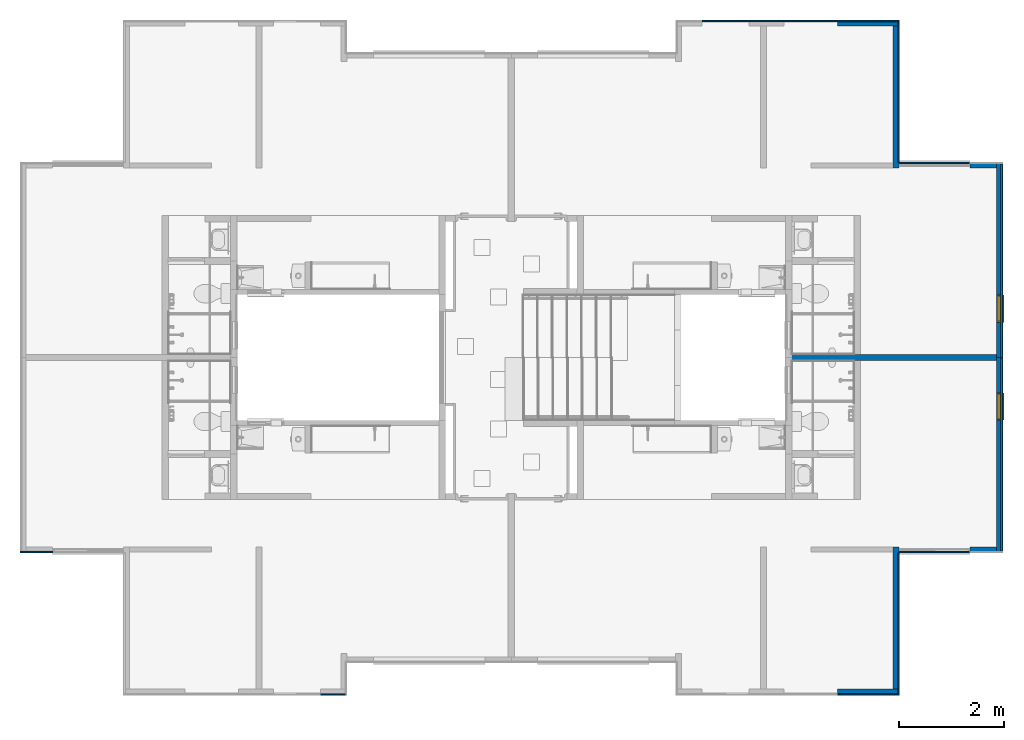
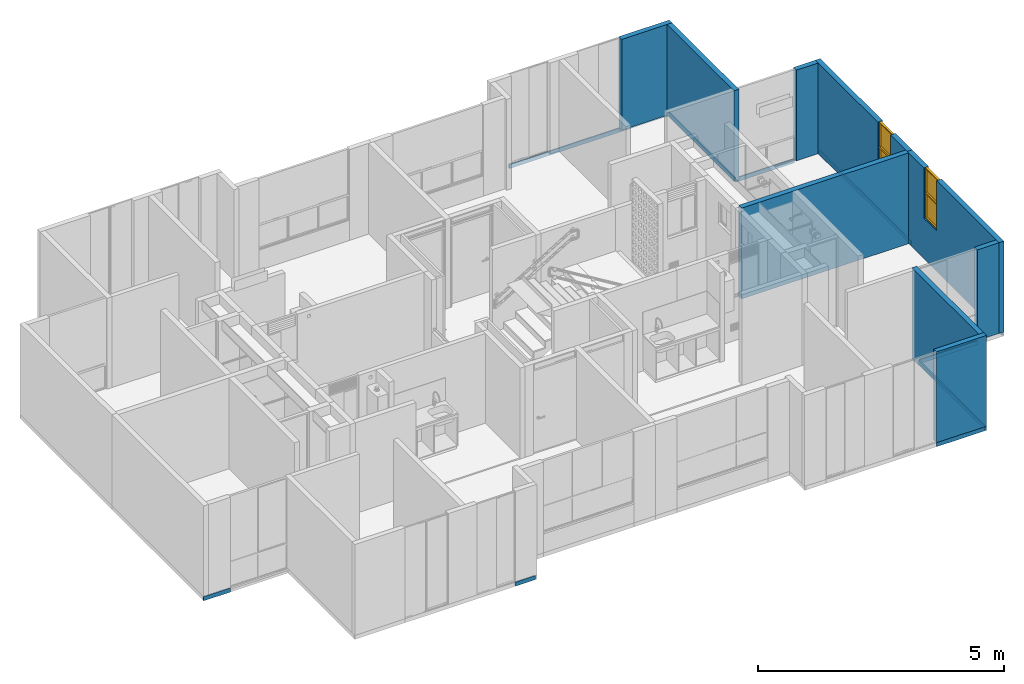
# One storey, part 26 of 48: 20 walls, 2 windows, 2 openings.
"""IFC4 building model written with IfcOpenShell, lengths in metres."""

from ifc_helpers import new_model, entity, si_unit, converted_unit, derived_unit, direction, frame, origin, place, context, subcontext, project, spatial, indexed_curve, outline, extrude, polygons, source, transform, mapped, material, constituent, constituent_set, type_object, type_shapes, element, fill, save


model = new_model("IFC4")

# Units and contexts
model_context = context("Model", 3, precision=1e-05, world=origin(), true_north=direction((6.123031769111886e-17, 1.0)))
body_context = subcontext(model_context, "Body", "Model", "MODEL_VIEW")
ifc_project = project(units=[si_unit("LENGTHUNIT", "METRE"), si_unit("AREAUNIT", "SQUARE_METRE"), si_unit("VOLUMEUNIT", "CUBIC_METRE"), converted_unit("PLANEANGLEUNIT", "DEGREE", entity("IfcRatioMeasure", 0.017453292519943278), si_unit("PLANEANGLEUNIT", "RADIAN"), dimensions=[0, 0, 0, 0, 0, 0, 0]), si_unit("MASSUNIT", "GRAM", prefix="KILO"), derived_unit("MASSDENSITYUNIT", [(si_unit("MASSUNIT", "GRAM", prefix="KILO"), 1), (si_unit("LENGTHUNIT", "METRE"), -3)]), derived_unit("IONCONCENTRATIONUNIT", [(si_unit("MASSUNIT", "GRAM", prefix="KILO"), 1), (si_unit("LENGTHUNIT", "METRE"), -3)]), derived_unit("MOMENTOFINERTIAUNIT", [(si_unit("LENGTHUNIT", "METRE"), 4)]), si_unit("TIMEUNIT", "SECOND"), si_unit("FREQUENCYUNIT", "HERTZ"), si_unit("THERMODYNAMICTEMPERATUREUNIT", "DEGREE_CELSIUS"), derived_unit("THERMALTRANSMITTANCEUNIT", [(si_unit("MASSUNIT", "GRAM", prefix="KILO"), 1), (si_unit("THERMODYNAMICTEMPERATUREUNIT", "KELVIN"), -1), (si_unit("TIMEUNIT", "SECOND"), -3)]), derived_unit("THERMALCONDUCTANCEUNIT", [(si_unit("MASSUNIT", "GRAM", prefix="KILO"), 1), (si_unit("THERMODYNAMICTEMPERATUREUNIT", "KELVIN"), -1), (si_unit("TIMEUNIT", "SECOND"), -3), (si_unit("LENGTHUNIT", "METRE"), 1)]), derived_unit("VOLUMETRICFLOWRATEUNIT", [(si_unit("LENGTHUNIT", "METRE"), 3), (si_unit("TIMEUNIT", "SECOND"), -1)]), derived_unit("MASSFLOWRATEUNIT", [(si_unit("MASSUNIT", "GRAM", prefix="KILO"), 1), (si_unit("TIMEUNIT", "SECOND"), -1)]), derived_unit("ROTATIONALFREQUENCYUNIT", [(si_unit("TIMEUNIT", "SECOND"), -1)]), si_unit("ELECTRICCURRENTUNIT", "AMPERE"), si_unit("ELECTRICVOLTAGEUNIT", "VOLT"), si_unit("POWERUNIT", "WATT"), si_unit("FORCEUNIT", "NEWTON", prefix="KILO"), si_unit("ILLUMINANCEUNIT", "LUX"), si_unit("LUMINOUSFLUXUNIT", "LUMEN"), si_unit("LUMINOUSINTENSITYUNIT", "CANDELA"), derived_unit("USERDEFINED", [(si_unit("MASSUNIT", "GRAM", prefix="KILO"), -1), (si_unit("LENGTHUNIT", "METRE"), -2), (si_unit("TIMEUNIT", "SECOND"), 3), (si_unit("LUMINOUSFLUXUNIT", "LUMEN"), 1)]), derived_unit("USERDEFINED", [(si_unit("MASSUNIT", "GRAM", prefix="KILO"), 1), (si_unit("TIMEUNIT", "SECOND"), -3), (si_unit("LENGTHUNIT", "METRE"), 3), (si_unit("ELECTRICCURRENTUNIT", "AMPERE"), -2)]), derived_unit("SOUNDPOWERUNIT", [(si_unit("MASSUNIT", "GRAM", prefix="KILO"), 1), (si_unit("TIMEUNIT", "SECOND"), -3), (si_unit("LENGTHUNIT", "METRE"), 2)]), derived_unit("SOUNDPRESSUREUNIT", [(si_unit("MASSUNIT", "GRAM", prefix="KILO"), 1), (si_unit("LENGTHUNIT", "METRE"), -1), (si_unit("TIMEUNIT", "SECOND"), -2)]), derived_unit("LINEARVELOCITYUNIT", [(si_unit("LENGTHUNIT", "METRE"), 1), (si_unit("TIMEUNIT", "SECOND"), -1)]), si_unit("PRESSUREUNIT", "PASCAL"), derived_unit("USERDEFINED", [(si_unit("MASSUNIT", "GRAM", prefix="KILO"), 1), (si_unit("LENGTHUNIT", "METRE"), -2), (si_unit("TIMEUNIT", "SECOND"), -2)]), derived_unit("LINEARFORCEUNIT", [(si_unit("MASSUNIT", "GRAM", prefix="KILO"), 1), (si_unit("TIMEUNIT", "SECOND"), -2)]), derived_unit("PLANARFORCEUNIT", [(si_unit("MASSUNIT", "GRAM", prefix="KILO"), 1), (si_unit("LENGTHUNIT", "METRE"), -1), (si_unit("TIMEUNIT", "SECOND"), -2)]), derived_unit("SPECIFICHEATCAPACITYUNIT", [(si_unit("THERMODYNAMICTEMPERATUREUNIT", "KELVIN"), -1), (si_unit("LENGTHUNIT", "METRE"), 2), (si_unit("TIMEUNIT", "SECOND"), -2)]), derived_unit("HEATINGVALUEUNIT", [(si_unit("LENGTHUNIT", "METRE"), 2), (si_unit("TIMEUNIT", "SECOND"), -2)]), derived_unit("VAPORPERMEABILITYUNIT", [(si_unit("LENGTHUNIT", "METRE"), -1), (si_unit("TIMEUNIT", "SECOND"), 1)]), derived_unit("DYNAMICVISCOSITYUNIT", [(si_unit("MASSUNIT", "GRAM", prefix="KILO"), 1), (si_unit("TIMEUNIT", "SECOND"), -1), (si_unit("LENGTHUNIT", "METRE"), -1)]), derived_unit("THERMALEXPANSIONCOEFFICIENTUNIT", [(si_unit("THERMODYNAMICTEMPERATUREUNIT", "KELVIN"), -1)]), derived_unit("MODULUSOFELASTICITYUNIT", [(si_unit("MASSUNIT", "GRAM", prefix="KILO"), 1), (si_unit("LENGTHUNIT", "METRE"), -1), (si_unit("TIMEUNIT", "SECOND"), -2)]), derived_unit("ISOTHERMALMOISTURECAPACITYUNIT", [(si_unit("LENGTHUNIT", "METRE"), 3), (si_unit("MASSUNIT", "GRAM", prefix="KILO"), -1)]), derived_unit("MOISTUREDIFFUSIVITYUNIT", [(si_unit("TIMEUNIT", "SECOND"), -1), (si_unit("LENGTHUNIT", "METRE"), 2)])], contexts=[model_context])

# Site, building, storey
site_placement = place(None, origin())
site = spatial("IfcSite", under=ifc_project, at=site_placement, Name="Default", CompositionType="ELEMENT")
building_placement = place(site_placement, origin())
building = spatial("IfcBuilding", under=site, at=building_placement, CompositionType="ELEMENT")
storey_placement = place(building_placement, frame((0.0, 0.0, 9.40000000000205)))
storey = spatial("IfcBuildingStorey", under=building, at=storey_placement, Name="Nivel 5", CompositionType="ELEMENT", Elevation=9.40000000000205)

# Wall
ifc_material_1 = material(Name="Concreto (Aire)", Category="Materials")
wall_type_1 = type_object("IfcWallType", Name="Basic Wall:B2010 - 0.12m - Muro interior en concreto", PredefinedType="STANDARD")
wall_1_placement = place(storey_placement, frame((18.587500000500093, -6.425000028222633, 0.0), z_axis=(0.0, 0.0, 1.0), x_axis=(-1.0, 0.0, 0.0)))
element("IfcWall", 1, at=wall_1_placement, inside=storey, type_object=wall_type_1, material=ifc_material_1, Name="Basic Wall:B2010 - 0.12m - Muro interior en concreto", ObjectType="Basic Wall:B2010 - 0.12m - Muro interior en concreto", PredefinedType="NOTDEFINED", context=body_context, shape_type="SweptSolid", body=[
    extrude(outline(indexed_curve([(3.914999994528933, 0.06000000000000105), (1.8965521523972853e-16, 0.060000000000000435), (-1.8965521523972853e-16, -0.060000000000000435), (3.914999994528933, -0.05999999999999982), (3.914999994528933, 0.06000000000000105)], self_intersect=False)), origin(), (0.0, 0.0, 1.0), 2.2500000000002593),
])

# Wall, opening, window
ifc_material_2 = material(Name="Ladrillo claro (Aire)", Category="Materials")
wall_type_2 = type_object("IfcWallType", Name="Basic Wall:B2010 - 0.115m - Muro exterior en mampostería - Ladrillo", PredefinedType="STANDARD")
wall_2_placement = place(storey_placement, frame((18.64500000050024, -2.695000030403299, 0.0), z_axis=(0.0, 0.0, 1.0), x_axis=(0.0, -1.0, 0.0)))
wall_2 = element("IfcWall", 2, at=wall_2_placement, inside=storey, type_object=wall_type_2, material=ifc_material_2, Name="Basic Wall:B2010 - 0.115m - Muro exterior en mampostería - Ladrillo", ObjectType="Basic Wall:B2010 - 0.115m - Muro exterior en mampostería - Ladrillo", PredefinedType="NOTDEFINED", context=body_context, shape_type="Tessellation", body=[
    polygons([(3.729999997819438, -0.05750000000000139, 2.25000000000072), (3.056249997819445, -0.05749999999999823, 2.250000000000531), (3.056249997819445, -0.05749999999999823, 1.0000000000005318), (2.536249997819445, -0.057500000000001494, 1.0000000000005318), (2.536249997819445, -0.057500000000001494, 2.250000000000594), (5.414335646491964e-16, -0.05749999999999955, 2.25000000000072), (5.414335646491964e-16, -0.05749999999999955, -2.1657342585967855e-15), (3.729999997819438, -0.05750000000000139, -2.1657342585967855e-15), (3.0562499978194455, 0.05750000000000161, 1.0000000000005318), (3.0562499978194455, 0.05750000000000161, 2.250000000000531), (3.7299999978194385, 0.05750000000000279, 2.25000000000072), (3.7299999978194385, 0.05750000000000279, -2.1657342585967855e-15), (5.414335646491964e-16, 0.057500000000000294, -2.1657342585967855e-15), (5.414335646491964e-16, 0.057500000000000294, 2.25000000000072), (2.5362499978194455, 0.05750000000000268, 2.250000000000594), (2.5362499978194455, 0.05750000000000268, 1.0000000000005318)], [[[1, 2, 3, 4, 5, 6, 7, 8]], [[9, 10, 11, 12, 13, 14, 15, 16]], [[8, 7, 13, 12]], [[1, 8, 12, 11]], [[11, 10, 2, 1]], [[7, 6, 14, 13]], [[5, 4, 16, 15]], [[3, 2, 10, 9]], [[4, 3, 9, 16]], [[15, 14, 6, 5]]], closed=True),
])
opening_1_placement = place(wall_2_placement, frame((2.5362499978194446, -0.057500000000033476, 1.0)))
opening_1 = element("IfcOpeningElement", 3, at=opening_1_placement, cuts=wall_2, Name="B2020 - Ventana batiente - Aluminio + Vidrio:B2020 -0.52m x 1.1.25m - Ventana batiente 2C - Aluminio + Vidrio:1", PredefinedType="OPENING", context=body_context, shape_type="SweptSolid", body=[
    extrude(outline(indexed_curve([(0.0, -1.3535839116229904e-16), (1.2499999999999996, -1.3535839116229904e-16), (1.2499999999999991, 0.5199999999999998), (0.0, 0.5199999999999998), (0.0, -1.3535839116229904e-16)], self_intersect=False)), frame((0.0, 0.0, 0.0), z_axis=(0.0, 1.0, 0.0), x_axis=(0.0, 0.0, 1.0)), (0.0, 0.0, 1.0), 0.115),
])
ifc_material_3 = material(Name="Vidrio", Category="Materials")
ifc_constituent_1 = constituent(ifc_material_3, Name="Vidrio", Category="Materials")
ifc_material_4 = material(Name="Aluminio", Category="Materials")
ifc_constituent_2 = constituent(ifc_material_4, Name="Aluminio", Category="Materials")
ifc_material_5 = material(Name="<Unnamed>")
ifc_constituent_3 = constituent(ifc_material_5, Name="<Unnamed>")
ifc_constituent_set_1 = constituent_set(constituents=[ifc_constituent_1, ifc_constituent_2, ifc_constituent_3])
ifc_constituent_4 = constituent(ifc_material_3, Name="Vidrio", Category="Materials")
ifc_constituent_5 = constituent(ifc_material_4, Name="Aluminio", Category="Materials")
ifc_constituent_6 = constituent(ifc_material_5, Name="<Unnamed>")
ifc_constituent_set_2 = constituent_set(constituents=[ifc_constituent_4, ifc_constituent_5, ifc_constituent_6])
window_type_1 = type_object("IfcWindowType", Name="B2020 - Ventana batiente - Aluminio + Vidrio:B2020 -0.52m x 1.1.25m - Ventana batiente 2C - Aluminio + Vidrio", PartitioningType="NOTDEFINED", PredefinedType="WINDOW", material=ifc_constituent_set_2)
shared_shape_1 = source(origin(), body_context, "Body", "SweptSolid", [
    extrude(outline(indexed_curve([(-0.0020000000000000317, -0.2400000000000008), (0.0019999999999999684, -0.2400000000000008), (0.0020000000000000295, 0.2400000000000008), (-0.0019999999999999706, 0.2400000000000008), (-0.0020000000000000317, -0.2400000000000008)], self_intersect=False)), frame((0.26000000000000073, 0.07013901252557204, 0.01999999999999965), z_axis=(0.0, 0.0, 1.0), x_axis=(0.0, -1.0, 0.0)), (0.0, 0.0, 1.0), 0.585),
    extrude(outline(indexed_curve([(-0.3124999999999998, -0.2599999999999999), (0.3124999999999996, -0.2599999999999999), (0.3124999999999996, 0.2599999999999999), (-0.3124999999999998, 0.2599999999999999), (-0.3124999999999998, -0.2599999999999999)], self_intersect=False), holes=[indexed_curve([(0.2924999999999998, -0.24000000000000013), (-0.2925, -0.24000000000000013), (-0.2925, 0.24000000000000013), (0.2924999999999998, 0.24000000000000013), (0.2924999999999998, -0.24000000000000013)], self_intersect=False)]), frame((0.26000000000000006, 0.032499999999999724, 0.3124999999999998), z_axis=(0.0, 1.0, 0.0), x_axis=(0.0, 0.0, 1.0)), (0.0, 0.0, 1.0), 0.05),
    extrude(outline(indexed_curve([(-0.0020000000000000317, -0.2400000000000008), (0.0019999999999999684, -0.2400000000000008), (0.0020000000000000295, 0.2400000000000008), (-0.0019999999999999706, 0.2400000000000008), (-0.0020000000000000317, -0.2400000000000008)], self_intersect=False)), frame((0.25999999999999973, 0.07013901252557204, 0.6449999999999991), z_axis=(0.0, 0.0, 1.0), x_axis=(0.0, -1.0, 0.0)), (0.0, 0.0, 1.0), 0.585),
    extrude(outline(indexed_curve([(-0.3124999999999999, -0.2599999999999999), (0.3124999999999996, -0.2599999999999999), (0.3124999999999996, 0.25999999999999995), (-0.3124999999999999, 0.2599999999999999), (-0.3124999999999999, -0.2599999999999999)], self_intersect=False), holes=[indexed_curve([(0.2924999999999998, -0.24000000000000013), (-0.2925000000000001, -0.24000000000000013), (-0.2925000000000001, 0.24000000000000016), (0.2924999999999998, 0.24000000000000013), (0.2924999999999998, -0.24000000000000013)], self_intersect=False)]), frame((0.259999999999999, 0.032499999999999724, 0.9374999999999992), z_axis=(0.0, 1.0, 0.0), x_axis=(0.0, 0.0, 1.0)), (0.0, 0.0, 1.0), 0.05),
    extrude(outline(indexed_curve([(2.1899534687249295e-05, 0.0030283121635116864), (0.03002189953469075, 0.0030283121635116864), (0.030021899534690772, 0.008028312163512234), (-0.0013178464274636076, 0.00802831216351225), (-0.030623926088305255, -0.008891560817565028), (-0.02812392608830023, -0.013221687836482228), (2.1899534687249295e-05, 0.0030283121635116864)], self_intersect=False)), frame((0.0, 0.11346687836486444, -0.002611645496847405), z_axis=(1.0, 0.0, 0.0), x_axis=(0.0, 0.8660254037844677, -0.4999999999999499)), (0.0, 0.0, 1.0), 0.520000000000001),
])
type_shapes(window_type_1, [shared_shape_1])
window_1_placement = place(opening_1_placement, origin())
window_1 = element("IfcWindow", 4, at=window_1_placement, inside=storey, type_object=window_type_1, material=ifc_constituent_set_1, Name="B2020 - Ventana batiente - Aluminio + Vidrio:B2020 -0.52m x 1.1.25m - Ventana batiente 2C - Aluminio + Vidrio", ObjectType="B2020 - Ventana batiente - Aluminio + Vidrio:B2020 -0.52m x 1.1.25m - Ventana batiente 2C - Aluminio + Vidrio", OverallHeight=1.2499999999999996, OverallWidth=0.5199999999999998, PartitioningType="NOTDEFINED", PredefinedType="WINDOW", context=body_context, shape_type="MappedRepresentation", body=[
    mapped(shared_shape_1, transform((0.0, 0.0, 0.0), scale=1.0)),
])
fill(opening_1, window_1)

# Wall
wall_3_placement = place(storey_placement, frame((16.670000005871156, -2.8100000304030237, 0.0), z_axis=(0.0, 0.0, 1.0), x_axis=(0.0, 1.0, 0.0)))
element("IfcWall", 5, at=wall_3_placement, inside=storey, type_object=wall_type_2, material=ifc_material_2, Name="Basic Wall:B2010 - 0.115m - Muro exterior en mampostería - Ladrillo", ObjectType="Basic Wall:B2010 - 0.115m - Muro exterior en mampostería - Ladrillo", PredefinedType="NOTDEFINED", context=body_context, shape_type="SweptSolid", body=[
    extrude(outline(indexed_curve([(2.7150000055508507, 0.057499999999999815), (1.0301981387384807e-16, 0.057499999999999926), (-1.0301981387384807e-16, -0.057499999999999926), (2.7150000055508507, -0.05750000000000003), (2.7150000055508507, 0.057499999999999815)], self_intersect=False)), origin(), (0.0, 0.0, 1.0), 2.25000000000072),
])

# Wall, opening, window
wall_4_placement = place(storey_placement, frame((18.645000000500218, -10.15500002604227, 0.0), z_axis=(0.0, 0.0, 1.0), x_axis=(0.0, 1.0, 0.0)))
wall_4 = element("IfcWall", 6, at=wall_4_placement, inside=storey, type_object=wall_type_2, material=ifc_material_2, Name="Basic Wall:B2010 - 0.115m - Muro exterior en mampostería - Ladrillo", ObjectType="Basic Wall:B2010 - 0.115m - Muro exterior en mampostería - Ladrillo", PredefinedType="NOTDEFINED", context=body_context, shape_type="Tessellation", body=[
    polygons([(3.729999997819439, -0.05750000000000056, 2.25000000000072), (3.05624999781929, -0.05749999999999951, 2.250000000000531), (3.05624999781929, -0.05749999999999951, 1.0000000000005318), (2.5362499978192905, -0.05749999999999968, 1.0000000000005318), (2.5362499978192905, -0.05749999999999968, 2.250000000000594), (0.0, -0.057499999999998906, 2.25000000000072), (0.0, -0.057499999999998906, -2.1657342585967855e-15), (3.729999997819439, -0.05750000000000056, -2.1657342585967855e-15), (3.056249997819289, 0.057500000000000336, 1.0000000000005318), (3.056249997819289, 0.057500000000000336, 2.250000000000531), (3.729999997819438, 0.05750000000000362, 2.25000000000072), (3.729999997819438, 0.05750000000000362, -2.1657342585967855e-15), (0.0, 0.05750000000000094, -2.1657342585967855e-15), (0.0, 0.05750000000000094, 2.25000000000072), (2.5362499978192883, 0.05750000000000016, 2.250000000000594), (2.5362499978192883, 0.05750000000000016, 1.0000000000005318)], [[[1, 2, 3, 4, 5, 6, 7, 8]], [[9, 10, 11, 12, 13, 14, 15, 16]], [[8, 7, 13, 12]], [[1, 8, 12, 11]], [[11, 10, 2, 1]], [[7, 6, 14, 13]], [[5, 4, 16, 15]], [[3, 2, 10, 9]], [[4, 3, 9, 16]], [[15, 14, 6, 5]]], closed=True),
])
opening_2_placement = place(wall_4_placement, frame((3.056249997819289, 0.05750000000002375, 1.0)))
opening_2 = element("IfcOpeningElement", 7, at=opening_2_placement, cuts=wall_4, Name="B2020 - Ventana batiente - Aluminio + Vidrio:B2020 -0.52m x 1.1.25m - Ventana batiente 2C - Aluminio + Vidrio:1", PredefinedType="OPENING", context=body_context, shape_type="SweptSolid", body=[
    extrude(outline(indexed_curve([(0.0, 0.5199999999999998), (0.0, 0.0), (1.2499999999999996, 0.0), (1.2499999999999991, 0.5199999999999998), (0.0, 0.5199999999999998)], self_intersect=False)), frame((0.0, 0.0, 0.0), z_axis=(0.0, -1.0, 0.0), x_axis=(0.0, 0.0, 1.0)), (0.0, 0.0, 1.0), 0.115),
])
ifc_constituent_7 = constituent(ifc_material_3, Name="Vidrio", Category="Materials")
ifc_constituent_8 = constituent(ifc_material_4, Name="Aluminio", Category="Materials")
ifc_constituent_9 = constituent(ifc_material_5, Name="<Unnamed>")
ifc_constituent_set_3 = constituent_set(constituents=[ifc_constituent_7, ifc_constituent_8, ifc_constituent_9])
ifc_constituent_10 = constituent(ifc_material_3, Name="Vidrio", Category="Materials")
ifc_constituent_11 = constituent(ifc_material_4, Name="Aluminio", Category="Materials")
ifc_constituent_12 = constituent(ifc_material_5, Name="<Unnamed>")
ifc_constituent_set_4 = constituent_set(constituents=[ifc_constituent_10, ifc_constituent_11, ifc_constituent_12])
window_type_2 = type_object("IfcWindowType", Name="B2020 - Ventana batiente - Aluminio + Vidrio:B2020 -0.52m x 1.1.25m - Ventana batiente 2C - Aluminio + Vidrio", PartitioningType="NOTDEFINED", PredefinedType="WINDOW", material=ifc_constituent_set_4)
shared_shape_2 = source(origin(), body_context, "Body", "SweptSolid", [
    extrude(outline(indexed_curve([(-0.2400000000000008, -0.001999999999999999), (0.2400000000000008, -0.001999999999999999), (0.2400000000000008, 0.0020000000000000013), (-0.2400000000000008, 0.0020000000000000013), (-0.2400000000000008, -0.001999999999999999)], self_intersect=False)), frame((0.26000000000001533, 0.07013901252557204, 0.01999999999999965), z_axis=(0.0, 0.0, 1.0), x_axis=(-1.0, 0.0, 0.0)), (0.0, 0.0, 1.0), 0.585),
    extrude(outline(indexed_curve([(-0.2599999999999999, -0.3124999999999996), (0.2599999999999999, -0.3124999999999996), (0.2599999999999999, 0.3124999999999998), (-0.2599999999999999, 0.3124999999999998), (-0.2599999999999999, -0.3124999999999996)], self_intersect=False), holes=[indexed_curve([(-0.24000000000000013, 0.2925), (0.24000000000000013, 0.2925), (0.24000000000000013, -0.2924999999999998), (-0.24000000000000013, -0.2924999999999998), (-0.24000000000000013, 0.2925)], self_intersect=False)]), frame((0.260000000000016, 0.08249999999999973, 0.3124999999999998), z_axis=(0.0, -1.0, 0.0), x_axis=(-1.0, 0.0, 0.0)), (0.0, 0.0, 1.0), 0.05),
    extrude(outline(indexed_curve([(-0.2400000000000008, -0.001999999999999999), (0.2400000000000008, -0.001999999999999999), (0.2400000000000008, 0.0020000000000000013), (-0.2400000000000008, 0.0020000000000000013), (-0.2400000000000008, -0.001999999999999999)], self_intersect=False)), frame((0.2600000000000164, 0.07013901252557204, 0.6449999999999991), z_axis=(0.0, 0.0, 1.0), x_axis=(-1.0, 0.0, 0.0)), (0.0, 0.0, 1.0), 0.585),
    extrude(outline(indexed_curve([(-0.2599999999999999, -0.3124999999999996), (0.2599999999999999, -0.3124999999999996), (0.2599999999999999, 0.3124999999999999), (-0.2599999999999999, 0.3124999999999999), (-0.2599999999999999, -0.3124999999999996)], self_intersect=False), holes=[indexed_curve([(-0.24000000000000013, 0.2925000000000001), (0.24000000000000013, 0.2925000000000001), (0.24000000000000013, -0.2924999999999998), (-0.24000000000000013, -0.2924999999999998), (-0.24000000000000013, 0.2925000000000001)], self_intersect=False)]), frame((0.26000000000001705, 0.08249999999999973, 0.9374999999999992), z_axis=(0.0, -1.0, 0.0), x_axis=(-1.0, 0.0, 0.0)), (0.0, 0.0, 1.0), 0.05),
    extrude(outline(indexed_curve([(-0.0015331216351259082, 0.002611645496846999), (0.030966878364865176, 0.002611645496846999), (0.030966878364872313, 0.007611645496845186), (-0.0028728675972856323, 0.007611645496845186), (-0.030013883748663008, -0.008058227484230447), (-0.027513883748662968, -0.012388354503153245), (-0.0015331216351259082, 0.002611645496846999)], self_intersect=False)), frame((0.5200000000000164, 0.11346687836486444, -0.002611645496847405), z_axis=(-1.0, 0.0, 0.0), x_axis=(0.0, -1.0, 0.0)), (0.0, 0.0, 1.0), 0.5200000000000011),
])
type_shapes(window_type_2, [shared_shape_2])
window_2_placement = place(opening_2_placement, frame((0.0, 0.0, 0.0), z_axis=(0.0, 0.0, 1.0), x_axis=(-1.0, 0.0, 0.0)))
window_2 = element("IfcWindow", 8, at=window_2_placement, inside=storey, type_object=window_type_2, material=ifc_constituent_set_3, Name="B2020 - Ventana batiente - Aluminio + Vidrio:B2020 -0.52m x 1.1.25m - Ventana batiente 2C - Aluminio + Vidrio", ObjectType="B2020 - Ventana batiente - Aluminio + Vidrio:B2020 -0.52m x 1.1.25m - Ventana batiente 2C - Aluminio + Vidrio", OverallHeight=1.2499999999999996, OverallWidth=0.5199999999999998, PartitioningType="NOTDEFINED", PredefinedType="WINDOW", context=body_context, shape_type="MappedRepresentation", body=[
    mapped(shared_shape_2, transform((0.0, 0.0, 0.0), scale=1.0)),
])
fill(opening_2, window_2)

# Walls
wall_5_placement = place(storey_placement, frame((16.670000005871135, -10.040000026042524, 0.0), z_axis=(0.0, 0.0, 1.0), x_axis=(0.0, -1.0, 0.0)))
element("IfcWall", 9, at=wall_5_placement, inside=storey, type_object=wall_type_2, material=ifc_material_2, Name="Basic Wall:B2010 - 0.115m - Muro exterior en mampostería - Ladrillo", ObjectType="Basic Wall:B2010 - 0.115m - Muro exterior en mampostería - Ladrillo", PredefinedType="NOTDEFINED", context=body_context, shape_type="SweptSolid", body=[
    extrude(outline(indexed_curve([(2.7150000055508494, 0.05750000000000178), (-1.0024667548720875e-15, 0.057499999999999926), (1.0024667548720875e-15, -0.057499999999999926), (2.7150000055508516, -0.057499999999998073), (2.7150000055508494, 0.05750000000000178)], self_intersect=False)), origin(), (0.0, 0.0, 1.0), 2.25000000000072),
])
ifc_material_6 = material(Name="LADRILLO CLARO", Category="Materials")
wall_type_3 = type_object("IfcWallType", Name="Basic Wall:B2010 - 0.115m - ME mampostería no estructural - Ladrillo", PredefinedType="STANDARD")
wall_6_placement = place(storey_placement, frame((18.58750000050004, -2.7525000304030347, 0.0), z_axis=(0.0, 0.0, 1.0), x_axis=(-1.0, 0.0, 0.0)))
element("IfcWall", 10, at=wall_6_placement, inside=storey, type_object=wall_type_3, material=ifc_material_6, Name="Basic Wall:B2010 - 0.115m - ME mampostería no estructural - Ladrillo", ObjectType="Basic Wall:B2010 - 0.115m - ME mampostería no estructural - Ladrillo", PredefinedType="NOTDEFINED", context=body_context, shape_type="SweptSolid", body=[
    extrude(outline(indexed_curve([(0.5099999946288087, 0.05749999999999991), (-1.8225877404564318e-16, 0.057499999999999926), (1.8225877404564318e-16, -0.057499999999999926), (0.5099999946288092, -0.05749999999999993), (0.5099999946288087, 0.05749999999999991)], self_intersect=False)), origin(), (0.0, 0.0, 1.0), 2.250000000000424),
])
wall_7_placement = place(storey_placement, frame((18.587500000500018, -10.097500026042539, 0.0), z_axis=(0.0, 0.0, 1.0), x_axis=(-1.0, 0.0, 0.0)))
element("IfcWall", 11, at=wall_7_placement, inside=storey, type_object=wall_type_3, material=ifc_material_6, Name="Basic Wall:B2010 - 0.115m - ME mampostería no estructural - Ladrillo", ObjectType="Basic Wall:B2010 - 0.115m - ME mampostería no estructural - Ladrillo", PredefinedType="NOTDEFINED", context=body_context, shape_type="SweptSolid", body=[
    extrude(outline(indexed_curve([(0.5099999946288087, 0.05749999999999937), (-1.82274758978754e-16, 0.057499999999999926), (1.82274758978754e-16, -0.057499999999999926), (0.5099999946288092, -0.057500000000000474), (0.5099999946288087, 0.05749999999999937)], self_intersect=False)), origin(), (0.0, 0.0, 1.0), 2.250000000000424),
])
wall_8_placement = place(storey_placement, frame((15.553300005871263, -0.03750002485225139, 0.0)))
element("IfcWall", 12, at=wall_8_placement, inside=storey, type_object=wall_type_3, material=ifc_material_6, Name="Basic Wall:B2010 - 0.115m - ME mampostería no estructural - Ladrillo", ObjectType="Basic Wall:B2010 - 0.115m - ME mampostería no estructural - Ladrillo", PredefinedType="NOTDEFINED", context=body_context, shape_type="SweptSolid", body=[
    extrude(outline(indexed_curve([(1.1741999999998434, 0.05749999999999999), (-3.2573614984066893e-16, 0.0575), (3.257361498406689e-16, -0.05749999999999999), (1.1741999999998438, -0.05749999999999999), (1.1741999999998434, 0.05749999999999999)], self_intersect=False)), origin(), (0.0, 0.0, 1.0), 2.2500000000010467),
])
wall_9_placement = place(storey_placement, frame((15.553300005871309, -12.812500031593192, 0.0)))
element("IfcWall", 13, at=wall_9_placement, inside=storey, type_object=wall_type_3, material=ifc_material_6, Name="Basic Wall:B2010 - 0.115m - ME mampostería no estructural - Ladrillo", ObjectType="Basic Wall:B2010 - 0.115m - ME mampostería no estructural - Ladrillo", PredefinedType="NOTDEFINED", context=body_context, shape_type="SweptSolid", body=[
    extrude(outline(indexed_curve([(1.1741999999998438, 0.05749999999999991), (3.1869443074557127e-16, 0.057499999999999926), (-3.1869443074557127e-16, -0.057499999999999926), (1.1741999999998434, -0.05749999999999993), (1.1741999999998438, 0.05749999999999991)], self_intersect=False)), origin(), (0.0, 0.0, 1.0), 2.2500000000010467),
])
wall_type_4 = type_object("IfcWallType", Name="Basic Wall:B2010 - 0.03m - ME enchape  no estructural - Ladrillo", PredefinedType="STANDARD")
wall_10_placement = place(storey_placement, frame((6.152499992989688, -12.855000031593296, -0.10000000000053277), z_axis=(0.0, 0.0, 1.0), x_axis=(-1.0, 0.0, 0.0)))
element("IfcWall", 14, at=wall_10_placement, inside=storey, type_object=wall_type_4, material=ifc_material_6, Name="Basic Wall:B2010 - 0.03m - ME enchape  no estructural - Ladrillo", ObjectType="Basic Wall:B2010 - 0.03m - ME enchape  no estructural - Ladrillo", PredefinedType="NOTDEFINED", context=body_context, shape_type="SweptSolid", body=[
    extrude(outline(indexed_curve([(0.4700000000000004, 0.015000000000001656), (4.570130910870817e-17, 0.015000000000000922), (-4.570130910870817e-17, -0.015000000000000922), (0.4700000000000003, -0.015000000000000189), (0.4700000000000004, 0.015000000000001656)], self_intersect=False)), origin(), (0.0, 0.0, 1.0), 0.09999999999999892),
])
wall_11_placement = place(storey_placement, frame((-0.057499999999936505, -10.140000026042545, -0.10000000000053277)))
element("IfcWall", 15, at=wall_11_placement, inside=storey, type_object=wall_type_4, material=ifc_material_6, Name="Basic Wall:B2010 - 0.03m - ME enchape  no estructural - Ladrillo", ObjectType="Basic Wall:B2010 - 0.03m - ME enchape  no estructural - Ladrillo", PredefinedType="NOTDEFINED", context=body_context, shape_type="SweptSolid", body=[
    extrude(outline(indexed_curve([(0.6249999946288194, 0.015000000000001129), (2.3382102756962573e-18, 0.015000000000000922), (-2.3382102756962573e-18, -0.015000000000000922), (0.6249999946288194, -0.015000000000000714), (0.6249999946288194, 0.015000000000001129)], self_intersect=False)), origin(), (0.0, 0.0, 1.0), 0.09999999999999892),
])
wall_12_placement = place(storey_placement, frame((16.71250000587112, -0.010000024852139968, -0.10000000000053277), z_axis=(0.0, 0.0, 1.0), x_axis=(0.0, -1.0, 0.0)))
element("IfcWall", 16, at=wall_12_placement, inside=storey, type_object=wall_type_4, material=ifc_material_6, Name="Basic Wall:B2010 - 0.03m - ME enchape  no estructural - Ladrillo", ObjectType="Basic Wall:B2010 - 0.03m - ME enchape  no estructural - Ladrillo", PredefinedType="NOTDEFINED", context=body_context, shape_type="SweptSolid", body=[
    extrude(outline(indexed_curve([(2.683660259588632, 0.015000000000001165), (1.7027254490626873e-18, 0.015000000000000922), (-1.7027254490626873e-18, -0.015000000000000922), (2.683660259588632, -0.015000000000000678), (2.683660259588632, 0.015000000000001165)], self_intersect=False)), origin(), (0.0, 0.0, 1.0), 0.09999999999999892),
])
wall_13_placement = place(storey_placement, frame((18.6875000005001, -2.725000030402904, -0.10000000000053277), z_axis=(0.0, 0.0, 1.0), x_axis=(0.0, -1.0, 0.0)))
element("IfcWall", 17, at=wall_13_placement, inside=storey, type_object=wall_type_4, material=ifc_material_6, Name="Basic Wall:B2010 - 0.03m - ME enchape  no estructural - Ladrillo", ObjectType="Basic Wall:B2010 - 0.03m - ME enchape  no estructural - Ladrillo", PredefinedType="NOTDEFINED", context=body_context, shape_type="SweptSolid", body=[
    extrude(outline(indexed_curve([(3.699999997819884, 0.015000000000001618), (-7.306011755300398e-17, 0.015000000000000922), (7.306011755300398e-17, -0.015000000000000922), (3.699999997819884, -0.015000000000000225), (3.699999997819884, 0.015000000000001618)], self_intersect=False)), origin(), (0.0, 0.0, 1.0), 0.09999999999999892),
])
wall_14_placement = place(storey_placement, frame((16.712500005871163, -12.840000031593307, -0.10000000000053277), z_axis=(0.0, 0.0, 1.0), x_axis=(0.0, 1.0, 0.0)))
element("IfcWall", 18, at=wall_14_placement, inside=storey, type_object=wall_type_4, material=ifc_material_6, Name="Basic Wall:B2010 - 0.03m - ME enchape  no estructural - Ladrillo", ObjectType="Basic Wall:B2010 - 0.03m - ME enchape  no estructural - Ladrillo", PredefinedType="NOTDEFINED", context=body_context, shape_type="SweptSolid", body=[
    extrude(outline(indexed_curve([(2.683660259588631, 0.015000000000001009), (-2.4689444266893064e-17, 0.015000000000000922), (2.4689444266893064e-17, -0.015000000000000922), (2.683660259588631, -0.015000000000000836), (2.683660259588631, 0.015000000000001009)], self_intersect=False)), origin(), (0.0, 0.0, 1.0), 0.09999999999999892),
])
wall_15_placement = place(storey_placement, frame((18.687500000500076, -10.125000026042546, -0.10000000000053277), z_axis=(0.0, 0.0, 1.0), x_axis=(0.0, 1.0, 0.0)))
element("IfcWall", 19, at=wall_15_placement, inside=storey, type_object=wall_type_4, material=ifc_material_6, Name="Basic Wall:B2010 - 0.03m - ME enchape  no estructural - Ladrillo", ObjectType="Basic Wall:B2010 - 0.03m - ME enchape  no estructural - Ladrillo", PredefinedType="NOTDEFINED", context=body_context, shape_type="SweptSolid", body=[
    extrude(outline(indexed_curve([(3.699999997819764, 0.015000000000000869), (-2.6129816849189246e-17, 0.015000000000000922), (2.6129816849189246e-17, -0.015000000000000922), (3.699999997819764, -0.015000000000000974), (3.699999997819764, 0.015000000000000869)], self_intersect=False)), origin(), (0.0, 0.0, 1.0), 0.09999999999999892),
])
wall_16_placement = place(storey_placement, frame((15.552500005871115, 0.004999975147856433, -0.10000000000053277)))
element("IfcWall", 20, at=wall_16_placement, inside=storey, type_object=wall_type_4, material=ifc_material_6, Name="Basic Wall:B2010 - 0.03m - ME enchape  no estructural - Ladrillo", ObjectType="Basic Wall:B2010 - 0.03m - ME enchape  no estructural - Ladrillo", PredefinedType="NOTDEFINED", context=body_context, shape_type="SweptSolid", body=[
    extrude(outline(indexed_curve([(1.1750000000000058, 0.014999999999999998), (4.3864338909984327e-17, 0.015), (-4.3864338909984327e-17, -0.015), (1.1750000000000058, -0.015000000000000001), (1.1750000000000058, 0.014999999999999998)], self_intersect=False)), origin(), (0.0, 0.0, 1.0), 0.09999999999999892),
])
wall_17_placement = place(storey_placement, frame((12.962500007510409, 0.004999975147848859, -0.10000000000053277)))
element("IfcWall", 21, at=wall_17_placement, inside=storey, type_object=wall_type_4, material=ifc_material_6, Name="Basic Wall:B2010 - 0.03m - ME enchape  no estructural - Ladrillo", ObjectType="Basic Wall:B2010 - 0.03m - ME enchape  no estructural - Ladrillo", PredefinedType="NOTDEFINED", context=body_context, shape_type="SweptSolid", body=[
    extrude(outline(indexed_curve([(2.5899999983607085, 0.014999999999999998), (4.3864338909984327e-17, 0.015), (-4.3864338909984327e-17, -0.015), (2.5899999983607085, -0.015000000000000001), (2.5899999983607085, 0.014999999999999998)], self_intersect=False)), origin(), (0.0, 0.0, 1.0), 0.09999999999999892),
])
wall_18_placement = place(storey_placement, frame((15.552500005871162, -12.855000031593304, -0.10000000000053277)))
element("IfcWall", 22, at=wall_18_placement, inside=storey, type_object=wall_type_4, material=ifc_material_6, Name="Basic Wall:B2010 - 0.03m - ME enchape  no estructural - Ladrillo", ObjectType="Basic Wall:B2010 - 0.03m - ME enchape  no estructural - Ladrillo", PredefinedType="NOTDEFINED", context=body_context, shape_type="SweptSolid", body=[
    extrude(outline(indexed_curve([(1.1749999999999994, 0.015000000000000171), (-4.570130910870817e-17, 0.015000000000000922), (4.570130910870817e-17, -0.015000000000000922), (1.1749999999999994, -0.015000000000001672), (1.1749999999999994, 0.015000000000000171)], self_intersect=False)), origin(), (0.0, 0.0, 1.0), 0.09999999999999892),
])
wall_19_placement = place(storey_placement, frame((18.077500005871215, -2.7100000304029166, -0.10000000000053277), z_axis=(0.0, 0.0, 1.0), x_axis=(-1.0, 0.0, 0.0)))
element("IfcWall", 23, at=wall_19_placement, inside=storey, type_object=wall_type_4, material=ifc_material_6, Name="Basic Wall:B2010 - 0.03m - ME enchape  no estructural - Ladrillo", ObjectType="Basic Wall:B2010 - 0.03m - ME enchape  no estructural - Ladrillo", PredefinedType="NOTDEFINED", context=body_context, shape_type="SweptSolid", body=[
    extrude(outline(indexed_curve([(1.3500000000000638, 0.014999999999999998), (3.050576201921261e-16, 0.014999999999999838), (-3.050576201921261e-16, -0.014999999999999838), (1.3500000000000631, -0.01499999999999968), (1.3500000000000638, 0.014999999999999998)], self_intersect=False)), origin(), (0.0, 0.0, 1.0), 0.09999999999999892),
])
wall_20_placement = place(storey_placement, frame((18.077500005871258, -10.140000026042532, -0.10000000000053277), z_axis=(0.0, 0.0, 1.0), x_axis=(-1.0, 0.0, 0.0)))
element("IfcWall", 24, at=wall_20_placement, inside=storey, type_object=wall_type_4, material=ifc_material_6, Name="Basic Wall:B2010 - 0.03m - ME enchape  no estructural - Ladrillo", ObjectType="Basic Wall:B2010 - 0.03m - ME enchape  no estructural - Ladrillo", PredefinedType="NOTDEFINED", context=body_context, shape_type="SweptSolid", body=[
    extrude(outline(indexed_curve([(1.3500000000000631, 0.015000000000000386), (-3.068945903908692e-16, 0.015000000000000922), (3.068945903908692e-16, -0.015000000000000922), (1.3500000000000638, -0.015000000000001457), (1.3500000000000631, 0.015000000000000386)], self_intersect=False)), origin(), (0.0, 0.0, 1.0), 0.09999999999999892),
])

save(model, "model.ifc")
